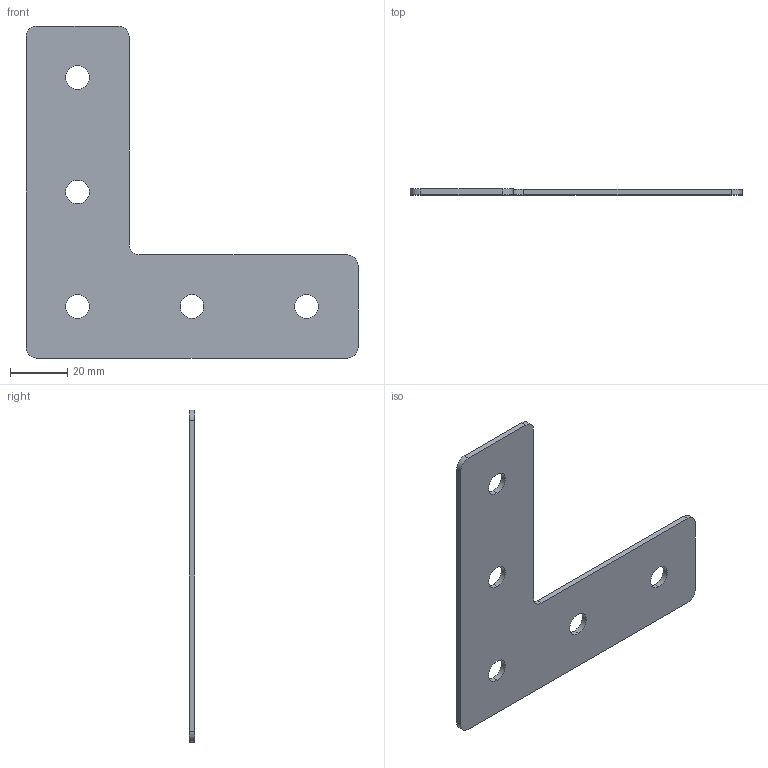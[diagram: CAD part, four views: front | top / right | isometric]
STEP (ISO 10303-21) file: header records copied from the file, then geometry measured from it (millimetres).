
FILE_DESCRIPTION (( 'STEP AP203' ), '1' );
FILE_NAME ('Ã-5-40.STEP', '2016-07-19T13:07:28', ( 'RosInstal-MKM' ), ( '' ), 'SwSTEP 2.0', 'SolidWorks 2014', '' );
FILE_SCHEMA (( 'CONFIG_CONTROL_DESIGN' ));
Length unit declared in the file: millimetre
Products named in the file (1): ﾃ-5-40
Bounding box: 116 x 2 x 116 mm (x, y, z)
Volume: 13559.5 mm3; surface area: 14725.7 mm2
Topology: 1 solids, 1 shells, 24 faces, 66 edges, 44 vertices
Faces by surface type: cylinder 16, plane 8
Entity records: 879 total; most frequent: DIRECTION 148, CARTESIAN_POINT 135, ORIENTED_EDGE 132, EDGE_CURVE 66, AXIS2_PLACEMENT_3D 57, VERTEX_POINT 44, VECTOR 34, LINE 34
